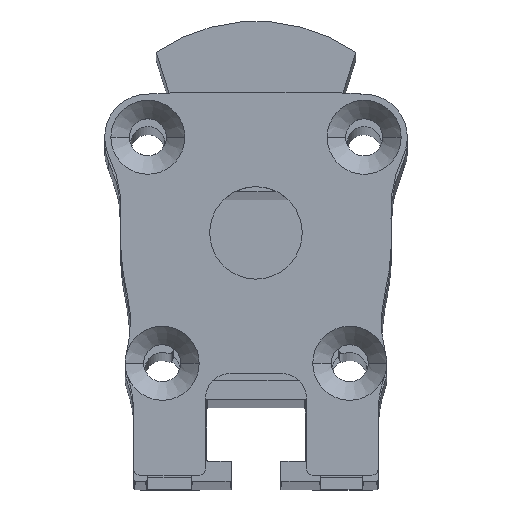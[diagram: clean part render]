
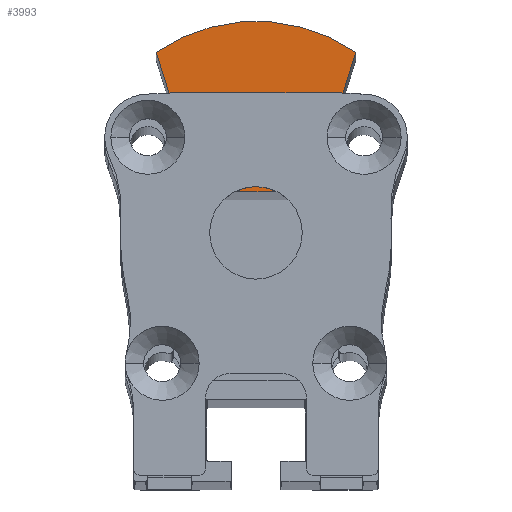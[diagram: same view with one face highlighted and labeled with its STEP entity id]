
A CAD part, top view. The second image highlights one B-rep face of the part: STEP entity #3993.
In plain terms, the highlighted planar face has unit normal (0, 0, 1).
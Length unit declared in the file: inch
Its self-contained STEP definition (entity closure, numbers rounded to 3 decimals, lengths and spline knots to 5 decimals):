
#3993=ADVANCED_FACE('',(#7809),#7810,.T.);
#4001=EDGE_CURVE('',#7813,#7819,#7822,.T.);
#4007=EDGE_CURVE('',#7827,#7819,#7830,.F.);
#4029=EDGE_CURVE('',#7861,#7862,#7863,.F.);
#4035=EDGE_CURVE('',#7869,#7870,#7871,.F.);
#4041=EDGE_CURVE('',#7870,#7861,#7877,.F.);
#4043=EDGE_CURVE('',#7869,#7879,#7880,.F.);
#4047=EDGE_CURVE('',#7813,#7862,#7884,.F.);
#4049=EDGE_CURVE('',#7886,#7887,#7888,.F.);
#4055=EDGE_CURVE('',#7827,#7894,#7895,.F.);
#4059=EDGE_CURVE('',#7894,#7886,#7899,.F.);
#4063=EDGE_CURVE('',#7901,#7887,#7904,.F.);
#4065=EDGE_CURVE('',#7879,#7901,#7906,.F.);
#7809=FACE_OUTER_BOUND('',#18343,.T.);
#7810=PLANE('',#18344);
#7813=VERTEX_POINT('',#18348);
#7819=VERTEX_POINT('',#18358);
#7822=LINE('',#18363,#18364);
#7827=VERTEX_POINT('',#18372);
#7830=LINE('',#18377,#18378);
#7861=VERTEX_POINT('',#18429);
#7862=VERTEX_POINT('',#18430);
#7863=LINE('',#18431,#18432);
#7869=VERTEX_POINT('',#18443);
#7870=VERTEX_POINT('',#18444);
#7871=LINE('',#18445,#18446);
#7877=LINE('',#18457,#18458);
#7879=VERTEX_POINT('',#18461);
#7880=LINE('',#18462,#18463);
#7884=LINE('',#18470,#18471);
#7886=VERTEX_POINT('',#18474);
#7887=VERTEX_POINT('',#18475);
#7888=LINE('',#18476,#18477);
#7894=VERTEX_POINT('',#18488);
#7895=LINE('',#18489,#18490);
#7899=LINE('',#18497,#18498);
#7901=VERTEX_POINT('',#18501);
#7904=LINE('',#18506,#18507);
#7906=CIRCLE('',#18510,0.56299);
#18343=EDGE_LOOP('',(#24052,#24053,#24054,#24055,#24056,#24057,#24058,#24059,#24060,#24061,#24062,#24063));
#18344=AXIS2_PLACEMENT_3D('',#24064,#24065,#24066);
#18348=CARTESIAN_POINT('',(-0.17932,0.15296,3.9099));
#18358=CARTESIAN_POINT('',(0.17932,0.15296,3.9099));
#18363=CARTESIAN_POINT('',(0.,0.15296,3.9099));
#18364=VECTOR('',#24070,1.0);
#18372=CARTESIAN_POINT('',(0.26301,0.4208,3.9099));
#18377=CARTESIAN_POINT('',(0.19145,0.19179,3.9099));
#18378=VECTOR('',#24073,1.0);
#18429=CARTESIAN_POINT('',(-0.21005,0.4208,3.9099));
#18430=CARTESIAN_POINT('',(-0.26301,0.4208,3.9099));
#18431=CARTESIAN_POINT('',(-0.12298,0.4208,3.9099));
#18432=VECTOR('',#24086,1.0);
#18443=CARTESIAN_POINT('',(-0.27532,0.46017,3.9099));
#18444=CARTESIAN_POINT('',(-0.21005,0.46017,3.9099));
#18445=CARTESIAN_POINT('',(-0.12298,0.46017,3.9099));
#18446=VECTOR('',#24089,1.0);
#18457=CARTESIAN_POINT('',(-0.21005,0.35333,3.9099));
#18458=VECTOR('',#24092,1.0);
#18461=CARTESIAN_POINT('',(-0.31832,0.59777,3.9099));
#18462=CARTESIAN_POINT('',(-0.19145,0.19179,3.9099));
#18463=VECTOR('',#24093,1.0);
#18470=CARTESIAN_POINT('',(-0.19145,0.19179,3.9099));
#18471=VECTOR('',#24095,1.0);
#18474=CARTESIAN_POINT('',(0.20856,0.46017,3.9099));
#18475=CARTESIAN_POINT('',(0.27532,0.46017,3.9099));
#18476=CARTESIAN_POINT('',(0.12223,0.46017,3.9099));
#18477=VECTOR('',#24096,1.0);
#18488=CARTESIAN_POINT('',(0.20856,0.4208,3.9099));
#18489=CARTESIAN_POINT('',(0.12223,0.4208,3.9099));
#18490=VECTOR('',#24099,1.0);
#18497=CARTESIAN_POINT('',(0.20856,0.35333,3.9099));
#18498=VECTOR('',#24101,1.0);
#18501=CARTESIAN_POINT('',(0.31832,0.59777,3.9099));
#18506=CARTESIAN_POINT('',(0.19145,0.19179,3.9099));
#18507=VECTOR('',#24103,1.0);
#18510=AXIS2_PLACEMENT_3D('',#24104,#24105,#24106);
#24052=ORIENTED_EDGE('',*,*,#4001,.T.);
#24053=ORIENTED_EDGE('',*,*,#4007,.F.);
#24054=ORIENTED_EDGE('',*,*,#4055,.T.);
#24055=ORIENTED_EDGE('',*,*,#4059,.T.);
#24056=ORIENTED_EDGE('',*,*,#4049,.T.);
#24057=ORIENTED_EDGE('',*,*,#4063,.F.);
#24058=ORIENTED_EDGE('',*,*,#4065,.F.);
#24059=ORIENTED_EDGE('',*,*,#4043,.F.);
#24060=ORIENTED_EDGE('',*,*,#4035,.T.);
#24061=ORIENTED_EDGE('',*,*,#4041,.T.);
#24062=ORIENTED_EDGE('',*,*,#4029,.T.);
#24063=ORIENTED_EDGE('',*,*,#4047,.F.);
#24064=CARTESIAN_POINT('',(0.,0.26619,3.9099));
#24065=DIRECTION('',(0.,0.,1.0));
#24066=DIRECTION('',(1.0,0.0,0.));
#24070=DIRECTION('',(1.0,0.0,0.));
#24073=DIRECTION('',(0.298,0.954,0.));
#24086=DIRECTION('',(1.0,0.0,0.));
#24089=DIRECTION('',(-1.0,0.0,0.));
#24092=DIRECTION('',(-0.0,1.0,0.));
#24093=DIRECTION('',(0.298,-0.954,0.));
#24095=DIRECTION('',(0.298,-0.954,0.));
#24096=DIRECTION('',(-1.0,0.0,0.));
#24099=DIRECTION('',(1.0,0.0,0.));
#24101=DIRECTION('',(-0.0,-1.0,0.));
#24103=DIRECTION('',(0.298,0.954,0.));
#24104=CARTESIAN_POINT('',(0.,0.13341,3.9099));
#24105=DIRECTION('',(0.,0.,1.0));
#24106=DIRECTION('',(1.0,0.,0.));
